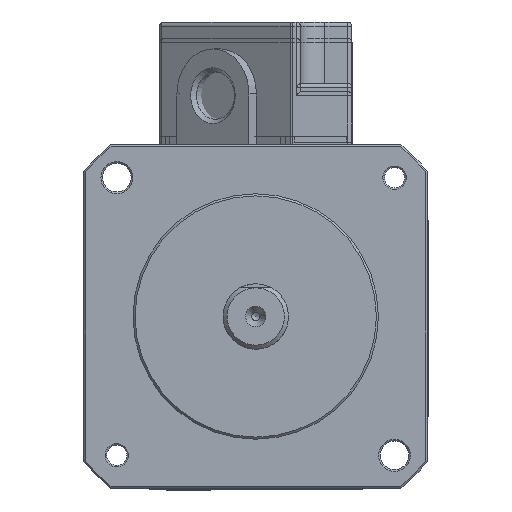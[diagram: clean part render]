
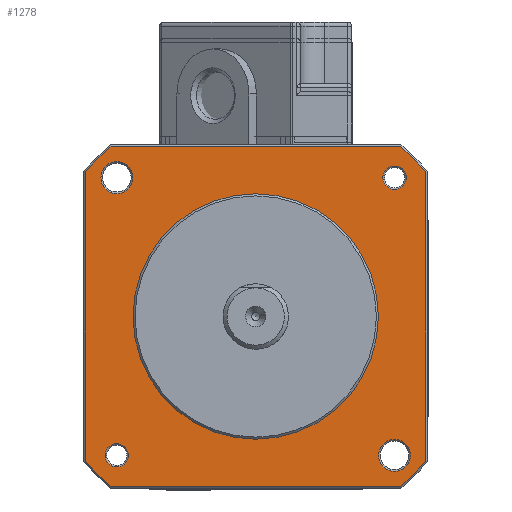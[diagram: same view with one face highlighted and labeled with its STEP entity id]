
A CAD part, left-side view. The second image highlights one B-rep face of the part: STEP entity #1278.
In plain terms, the highlighted planar face has unit normal (-1, 0, 0) as drawn and (0, -1, 0) by its records, which use the part's own axes.
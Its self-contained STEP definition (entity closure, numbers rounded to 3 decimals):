
#1278 = ADVANCED_FACE( '', ( #2874, #2875, #2876, #2877, #2878, #2879 ), #2880, .F. );
#2874 = FACE_BOUND( '', #5193, .T. );
#2875 = FACE_BOUND( '', #5194, .T. );
#2876 = FACE_OUTER_BOUND( '', #5195, .T. );
#2877 = FACE_BOUND( '', #5196, .T. );
#2878 = FACE_BOUND( '', #5197, .T. );
#2879 = FACE_BOUND( '', #5198, .T. );
#2880 = PLANE( '', #5199 );
#5193 = EDGE_LOOP( '', ( #8278 ) );
#5194 = EDGE_LOOP( '', ( #8279 ) );
#5195 = EDGE_LOOP( '', ( #8280, #8281, #8282, #8283, #8284, #8285, #8286, #8287 ) );
#5196 = EDGE_LOOP( '', ( #8288 ) );
#5197 = EDGE_LOOP( '', ( #8289 ) );
#5198 = EDGE_LOOP( '', ( #8290 ) );
#5199 = AXIS2_PLACEMENT_3D( '', #8291, #8292, #8293 );
#8278 = ORIENTED_EDGE( '', *, *, #12488, .T. );
#8279 = ORIENTED_EDGE( '', *, *, #13256, .T. );
#8280 = ORIENTED_EDGE( '', *, *, #13257, .T. );
#8281 = ORIENTED_EDGE( '', *, *, #13258, .T. );
#8282 = ORIENTED_EDGE( '', *, *, #13259, .T. );
#8283 = ORIENTED_EDGE( '', *, *, #13260, .T. );
#8284 = ORIENTED_EDGE( '', *, *, #12821, .T. );
#8285 = ORIENTED_EDGE( '', *, *, #13261, .T. );
#8286 = ORIENTED_EDGE( '', *, *, #13262, .T. );
#8287 = ORIENTED_EDGE( '', *, *, #13263, .T. );
#8288 = ORIENTED_EDGE( '', *, *, #13264, .T. );
#8289 = ORIENTED_EDGE( '', *, *, #13265, .T. );
#8290 = ORIENTED_EDGE( '', *, *, #13266, .T. );
#8291 = CARTESIAN_POINT( '', ( 0., -8.3, 0. ) );
#8292 = DIRECTION( '', ( 0., 1., 0. ) );
#8293 = DIRECTION( '', ( 0., 0., 1. ) );
#12488 = EDGE_CURVE( '', #14622, #14622, #14623, .T. );
#12821 = EDGE_CURVE( '', #15196, #15197, #15198, .F. );
#13256 = EDGE_CURVE( '', #15907, #15907, #15908, .T. );
#13257 = EDGE_CURVE( '', #15909, #15910, #15911, .F. );
#13258 = EDGE_CURVE( '', #15910, #15912, #15913, .F. );
#13259 = EDGE_CURVE( '', #15912, #15914, #15915, .F. );
#13260 = EDGE_CURVE( '', #15914, #15196, #15916, .F. );
#13261 = EDGE_CURVE( '', #15197, #15917, #15918, .F. );
#13262 = EDGE_CURVE( '', #15917, #15919, #15920, .F. );
#13263 = EDGE_CURVE( '', #15919, #15909, #15921, .F. );
#13264 = EDGE_CURVE( '', #15922, #15922, #15923, .T. );
#13265 = EDGE_CURVE( '', #15924, #15924, #15925, .T. );
#13266 = EDGE_CURVE( '', #15926, #15926, #15927, .T. );
#14622 = VERTEX_POINT( '', #17713 );
#14623 = CIRCLE( '', #17714, 1.95 );
#15196 = VERTEX_POINT( '', #18592 );
#15197 = VERTEX_POINT( '', #18593 );
#15198 = CIRCLE( '', #18594, 27.3 );
#15907 = VERTEX_POINT( '', #19578 );
#15908 = CIRCLE( '', #19579, 1.95 );
#15909 = VERTEX_POINT( '', #19580 );
#15910 = VERTEX_POINT( '', #19581 );
#15911 = CIRCLE( '', #19582, 27.3 );
#15912 = VERTEX_POINT( '', #19583 );
#15913 = LINE( '', #19584, #19585 );
#15914 = VERTEX_POINT( '', #19586 );
#15915 = CIRCLE( '', #19587, 27.3 );
#15916 = LINE( '', #19588, #19589 );
#15917 = VERTEX_POINT( '', #19590 );
#15918 = LINE( '', #19591, #19592 );
#15919 = VERTEX_POINT( '', #19593 );
#15920 = CIRCLE( '', #19594, 27.3 );
#15921 = LINE( '', #19595, #19596 );
#15922 = VERTEX_POINT( '', #19597 );
#15923 = CIRCLE( '', #19598, 1.425 );
#15924 = VERTEX_POINT( '', #19599 );
#15925 = CIRCLE( '', #19600, 1.425 );
#15926 = VERTEX_POINT( '', #19601 );
#15927 = CIRCLE( '', #19602, 15. );
#17713 = CARTESIAN_POINT( '', ( -16.971, -8.3, -15.021 ) );
#17714 = AXIS2_PLACEMENT_3D( '', #22085, #22086, #22087 );
#18592 = CARTESIAN_POINT( '', ( 20.8, -8.3, 17.682 ) );
#18593 = CARTESIAN_POINT( '', ( 17.682, -8.3, 20.8 ) );
#18594 = AXIS2_PLACEMENT_3D( '', #22532, #22533, #22534 );
#19578 = CARTESIAN_POINT( '', ( 16.971, -8.3, 18.921 ) );
#19579 = AXIS2_PLACEMENT_3D( '', #23143, #23144, #23145 );
#19580 = CARTESIAN_POINT( '', ( -20.8, -8.3, -17.682 ) );
#19581 = CARTESIAN_POINT( '', ( -17.682, -8.3, -20.8 ) );
#19582 = AXIS2_PLACEMENT_3D( '', #23146, #23147, #23148 );
#19583 = CARTESIAN_POINT( '', ( 17.682, -8.3, -20.8 ) );
#19584 = CARTESIAN_POINT( '', ( -17.755, -8.3, -20.8 ) );
#19585 = VECTOR( '', #23149, 1000. );
#19586 = CARTESIAN_POINT( '', ( 20.8, -8.3, -17.682 ) );
#19587 = AXIS2_PLACEMENT_3D( '', #23150, #23151, #23152 );
#19588 = CARTESIAN_POINT( '', ( 20.8, -8.3, -17.755 ) );
#19589 = VECTOR( '', #23153, 1000. );
#19590 = CARTESIAN_POINT( '', ( -17.682, -8.3, 20.8 ) );
#19591 = CARTESIAN_POINT( '', ( 17.755, -8.3, 20.8 ) );
#19592 = VECTOR( '', #23154, 1000. );
#19593 = CARTESIAN_POINT( '', ( -20.8, -8.3, 17.682 ) );
#19594 = AXIS2_PLACEMENT_3D( '', #23155, #23156, #23157 );
#19595 = CARTESIAN_POINT( '', ( -20.8, -8.3, 17.755 ) );
#19596 = VECTOR( '', #23158, 1000. );
#19597 = CARTESIAN_POINT( '', ( 16.971, -8.3, -15.546 ) );
#19598 = AXIS2_PLACEMENT_3D( '', #23159, #23160, #23161 );
#19599 = CARTESIAN_POINT( '', ( -16.971, -8.3, 18.396 ) );
#19600 = AXIS2_PLACEMENT_3D( '', #23162, #23163, #23164 );
#19601 = CARTESIAN_POINT( '', ( 0., -8.3, 15. ) );
#19602 = AXIS2_PLACEMENT_3D( '', #23165, #23166, #23167 );
#22085 = CARTESIAN_POINT( '', ( -16.971, -8.3, -16.971 ) );
#22086 = DIRECTION( '', ( 0., 1., 0. ) );
#22087 = DIRECTION( '', ( 0., 0., 1. ) );
#22532 = CARTESIAN_POINT( '', ( 0., -8.3, 0. ) );
#22533 = DIRECTION( '', ( 0., 1., 0. ) );
#22534 = DIRECTION( '', ( 0., 0., 1. ) );
#23143 = CARTESIAN_POINT( '', ( 16.971, -8.3, 16.971 ) );
#23144 = DIRECTION( '', ( 0., 1., 0. ) );
#23145 = DIRECTION( '', ( 0., 0., 1. ) );
#23146 = CARTESIAN_POINT( '', ( 0., -8.3, 0. ) );
#23147 = DIRECTION( '', ( 0., 1., 0. ) );
#23148 = DIRECTION( '', ( 0., 0., 1. ) );
#23149 = DIRECTION( '', ( -1., 0., 0. ) );
#23150 = CARTESIAN_POINT( '', ( 0., -8.3, 0. ) );
#23151 = DIRECTION( '', ( 0., 1., 0. ) );
#23152 = DIRECTION( '', ( 0., 0., 1. ) );
#23153 = DIRECTION( '', ( 0., 0., -1. ) );
#23154 = DIRECTION( '', ( 1., 0., 0. ) );
#23155 = CARTESIAN_POINT( '', ( 0., -8.3, 0. ) );
#23156 = DIRECTION( '', ( 0., 1., 0. ) );
#23157 = DIRECTION( '', ( 0., 0., 1. ) );
#23158 = DIRECTION( '', ( 0., 0., 1. ) );
#23159 = CARTESIAN_POINT( '', ( 16.971, -8.3, -16.971 ) );
#23160 = DIRECTION( '', ( 0., 1., 0. ) );
#23161 = DIRECTION( '', ( 0., 0., 1. ) );
#23162 = CARTESIAN_POINT( '', ( -16.971, -8.3, 16.971 ) );
#23163 = DIRECTION( '', ( 0., 1., 0. ) );
#23164 = DIRECTION( '', ( 0., 0., 1. ) );
#23165 = CARTESIAN_POINT( '', ( 0., -8.3, 0. ) );
#23166 = DIRECTION( '', ( 0., 1., 0. ) );
#23167 = DIRECTION( '', ( 0., 0., 1. ) );
